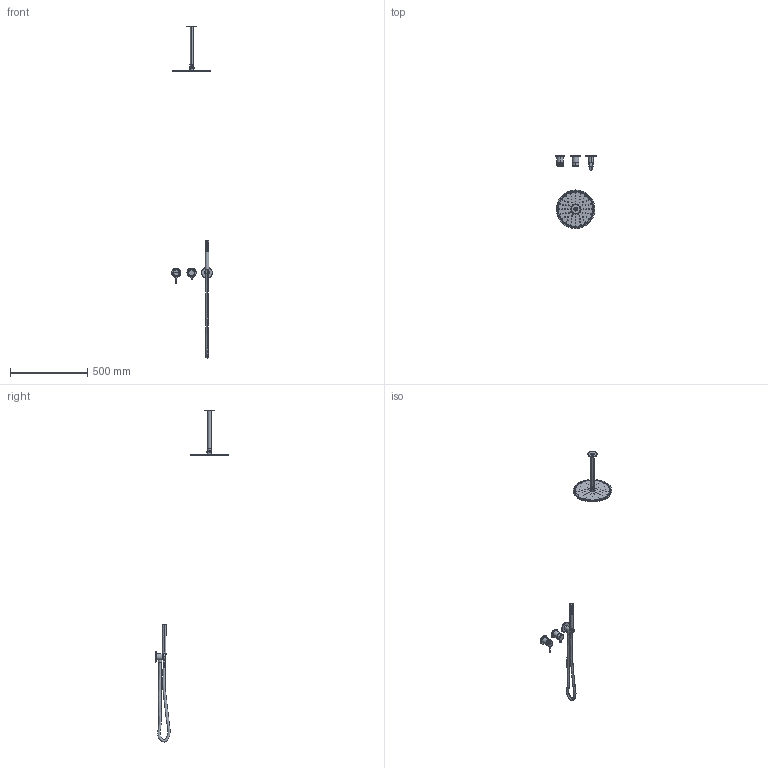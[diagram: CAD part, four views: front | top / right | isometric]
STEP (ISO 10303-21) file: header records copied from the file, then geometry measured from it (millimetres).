
FILE_DESCRIPTION(/* description */ (''),/* implementation_level */ '2;1');
FILE_NAME(/* name */ 'ST2551ACC',/* time_stamp */ '2024-03-14T15:19:03+01:00',/* author */ (''),/* organization */ (''),/* preprocessor_version */ 'ST-DEVELOPER v16.5',/* originating_system */ 'Rhino 7.36',/* authorisation */ '');
FILE_SCHEMA (('CONFIG_CONTROL_DESIGN'));
Products named in the file (1): Document
Bounding box: 264.94 x 476 x 2152.74 mm (x, y, z)
Volume: 302914.1 mm3; surface area: 378514.9 mm2
Topology: 107 solids, 176 shells, 2258 faces, 5012 edges, 3109 vertices
Faces by surface type: bspline 868, cylinder 836, plane 554
Entity records: 72842 total; most frequent: CARTESIAN_POINT 41608, ORIENTED_EDGE 9723, EDGE_CURVE 5008, VERTEX_POINT 3109, EDGE_LOOP 2772, ADVANCED_FACE 2258, FACE_OUTER_BOUND 2258, DIRECTION 1396
